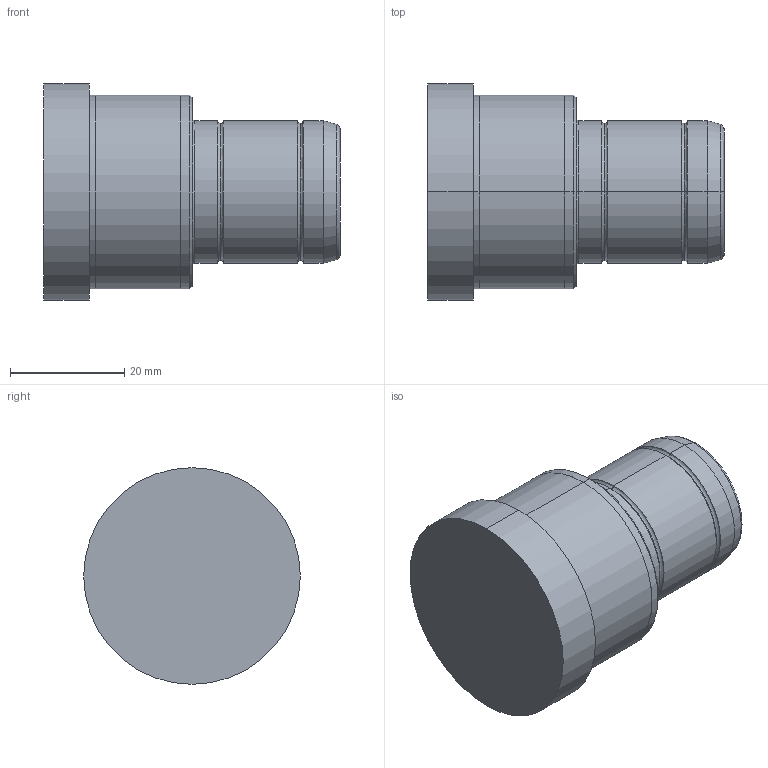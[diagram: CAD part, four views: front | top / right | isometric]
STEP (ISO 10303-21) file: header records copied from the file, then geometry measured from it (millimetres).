
FILE_DESCRIPTION( ( 'STEP AP203' ), '1' );
FILE_NAME( 'C:/Projects/D02 - 25x26x26.step', '2002-12-31T22:13:38', ( ' ' ), ( ' ' ), 'XStep 1.0', ' ', ' ' );
FILE_SCHEMA( ( 'CONFIG_CONTROL_DESIGN' ) );
Length unit declared in the file: metre
Products named in the file (1): 1
Bounding box: 52 x 38 x 38 mm (x, y, z)
Volume: 38023.7 mm3; surface area: 7148.6 mm2
Topology: 1 solids, 1 shells, 36 faces, 70 edges, 40 vertices
Faces by surface type: bspline 18, revolution 18
Entity records: 1127 total; most frequent: CARTESIAN_POINT 417, ORIENTED_EDGE 140, DIRECTION 118, EDGE_CURVE 70, AXIS2_PLACEMENT_3D 41, EDGE_LOOP 40, VERTEX_POINT 40, CIRCLE 40
